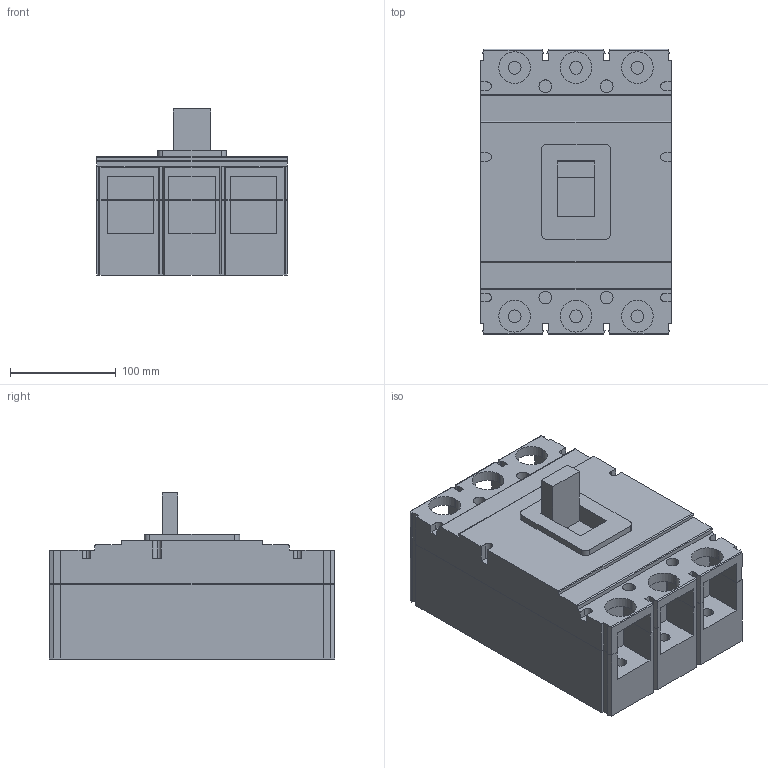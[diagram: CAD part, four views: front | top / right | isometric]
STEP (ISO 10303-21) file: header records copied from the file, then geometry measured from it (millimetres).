
FILE_DESCRIPTION (( 'STEP AP203' ), '1' );
FILE_NAME ('630M-3P剿繚ん.STEP', '2019-04-24T08:54:16', ( 'User' ), ( 'china' ), 'SwSTEP 2.0', 'SolidWorks 2011', '' );
FILE_SCHEMA (( 'CONFIG_CONTROL_DESIGN' ));
Length unit declared in the file: millimetre
Products named in the file (1): 630M-3P剿繚ん
Bounding box: 180 x 270 x 157 mm (x, y, z)
Volume: 4657536.7 mm3; surface area: 346161.3 mm2
Topology: 2 solids, 2 shells, 273 faces, 767 edges, 510 vertices
Faces by surface type: plane 210, cylinder 63
Entity records: 8838 total; most frequent: CARTESIAN_POINT 1587, ORIENTED_EDGE 1534, DIRECTION 1417, EDGE_CURVE 767, VECTOR 641, LINE 641, VERTEX_POINT 510, AXIS2_PLACEMENT_3D 388
